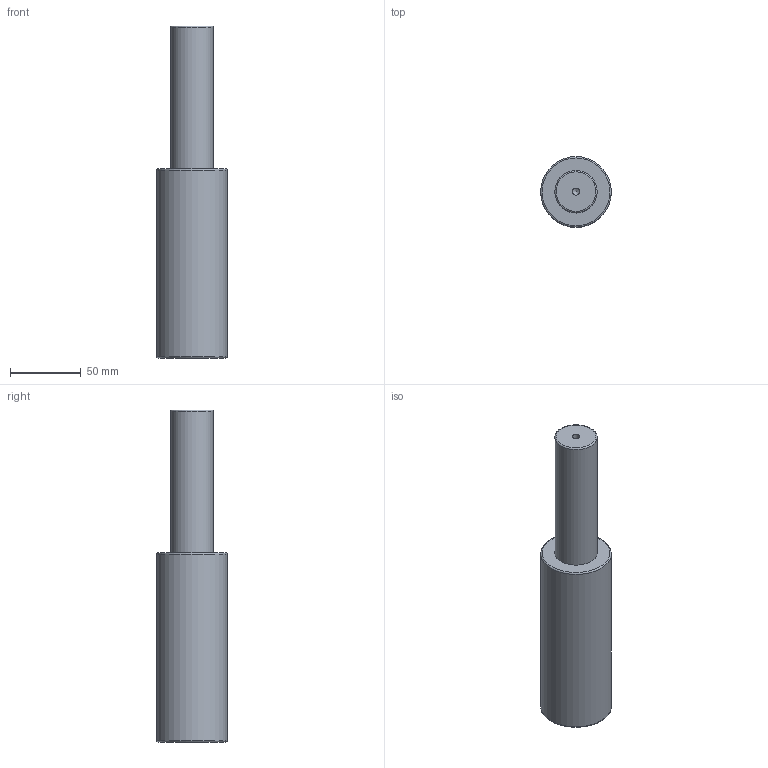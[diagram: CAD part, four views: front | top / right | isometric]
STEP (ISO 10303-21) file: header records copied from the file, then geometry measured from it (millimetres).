
FILE_DESCRIPTION(/* description */ (''),/* implementation_level */ '2;1');
FILE_NAME(/* name */ 'NV5-SMLX.50x100.stp',/* time_stamp */ '2018-08-31T16:08:34+02:00',/* author */ (''),/* organization */ (''),/* preprocessor_version */ 'ST-DEVELOPER v16',/* originating_system */ 'SIEMENS PLM Software NX 10.0',/* authorisation */ '');
FILE_SCHEMA (('AUTOMOTIVE_DESIGN { 1 0 10303 214 3 1 1 1 }'));
Length unit declared in the file: millimetre
Products named in the file (1): NV5-SMLX.50x100
Bounding box: 50 x 50 x 235 mm (x, y, z)
Volume: 333175.6 mm3; surface area: 34957.5 mm2
Topology: 1 solids, 1 shells, 12 faces, 24 edges, 15 vertices
Faces by surface type: cylinder 4, torus 3, plane 3, cone 2
Full cylindrical faces by diameter (mm): 5 x1, 8.5 x1, 30 x1, 50 x1
Entity records: 266 total; most frequent: DIRECTION 48, CARTESIAN_POINT 37, FACE_BOUND 24, AXIS2_PLACEMENT_3D 24, EDGE_LOOP 22, ORIENTED_EDGE 22, VERTEX_POINT 13, ADVANCED_FACE 12
